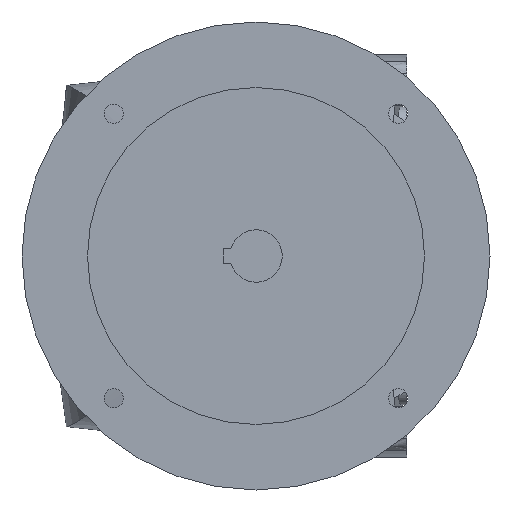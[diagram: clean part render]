
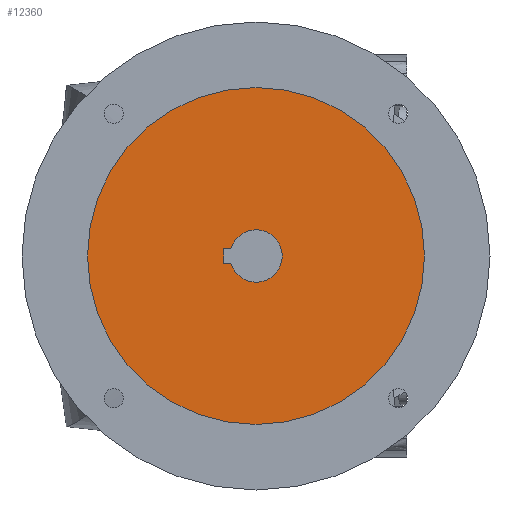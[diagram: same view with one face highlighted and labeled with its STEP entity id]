
A CAD part, left-side view. The second image highlights one B-rep face of the part: STEP entity #12360.
In plain terms, the highlighted planar face has unit normal (-1, 0, 0).
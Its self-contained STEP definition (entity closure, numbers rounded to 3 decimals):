
#4033=CARTESIAN_POINT('',(-142.5,101.5,0.));
#4034=DIRECTION('',(-1.,0.,0.));
#4035=DIRECTION('',(0.,0.,1.));
#4036=AXIS2_PLACEMENT_3D('',#4033,#4034,#4035);
#4038=CARTESIAN_POINT('',(-142.5,101.5,0.));
#4039=DIRECTION('',(-1.,0.,0.));
#4040=DIRECTION('',(0.,0.,-1.));
#4041=AXIS2_PLACEMENT_3D('',#4038,#4039,#4040);
#4043=DIRECTION('',(0.,0.,-1.));
#4044=VECTOR('',#4043,8.);
#4045=CARTESIAN_POINT('',(-142.5,118.8,4.));
#4046=LINE('',#4045,#4044);
#4047=DIRECTION('',(0.,-1.,0.));
#4048=VECTOR('',#4047,3.884);
#4049=CARTESIAN_POINT('',(-142.5,118.8,-4.));
#4050=LINE('',#4049,#4048);
#4051=CARTESIAN_POINT('',(-142.5,101.5,0.));
#4052=DIRECTION('',(-1.,0.,0.));
#4053=DIRECTION('',(0.,0.958,-0.286));
#4054=AXIS2_PLACEMENT_3D('',#4051,#4052,#4053);
#4056=DIRECTION('',(0.,1.,0.));
#4057=VECTOR('',#4056,3.884);
#4058=CARTESIAN_POINT('',(-142.5,114.916,4.));
#4059=LINE('',#4058,#4057);
#6076=CARTESIAN_POINT('',(-142.5,101.5,-89.988));
#6077=CARTESIAN_POINT('',(-142.5,101.5,89.988));
#6078=VERTEX_POINT('',#6076);
#6079=VERTEX_POINT('',#6077);
#6923=CARTESIAN_POINT('',(-142.5,118.8,4.));
#6924=CARTESIAN_POINT('',(-142.5,118.8,-4.));
#6925=VERTEX_POINT('',#6923);
#6926=VERTEX_POINT('',#6924);
#6927=CARTESIAN_POINT('',(-142.5,114.916,-4.));
#6928=VERTEX_POINT('',#6927);
#6929=CARTESIAN_POINT('',(-142.5,114.916,4.));
#6930=VERTEX_POINT('',#6929);
#12341=CARTESIAN_POINT('',(-142.5,101.5,0.));
#12342=DIRECTION('',(1.,0.,0.));
#12343=DIRECTION('',(0.,0.,-1.));
#12344=AXIS2_PLACEMENT_3D('',#12341,#12342,#12343);
#12345=PLANE('',#12344);
#12346=ORIENTED_EDGE('',*,*,#12323,.F.);
#12347=ORIENTED_EDGE('',*,*,#12333,.F.);
#12348=EDGE_LOOP('',(#12346,#12347));
#12349=FACE_OUTER_BOUND('',#12348,.F.);
#12351=ORIENTED_EDGE('',*,*,#12350,.T.);
#12353=ORIENTED_EDGE('',*,*,#12352,.T.);
#12355=ORIENTED_EDGE('',*,*,#12354,.T.);
#12357=ORIENTED_EDGE('',*,*,#12356,.T.);
#12358=EDGE_LOOP('',(#12351,#12353,#12355,#12357));
#12359=FACE_BOUND('',#12358,.F.);
#12360=ADVANCED_FACE('',(#12349,#12359),#12345,.F.);
#4037=CIRCLE('',#4036,89.988);
#4042=CIRCLE('',#4041,89.988);
#4055=CIRCLE('',#4054,14.);
#12323=EDGE_CURVE('',#6079,#6078,#4037,.T.);
#12333=EDGE_CURVE('',#6078,#6079,#4042,.T.);
#12350=EDGE_CURVE('',#6925,#6926,#4046,.T.);
#12352=EDGE_CURVE('',#6926,#6928,#4050,.T.);
#12354=EDGE_CURVE('',#6928,#6930,#4055,.T.);
#12356=EDGE_CURVE('',#6930,#6925,#4059,.T.);
